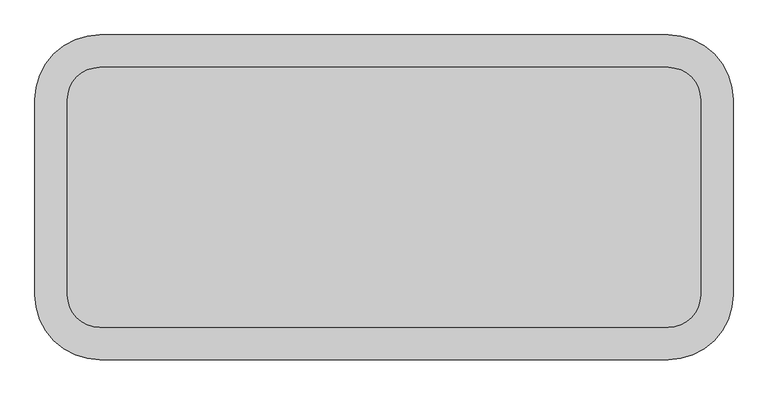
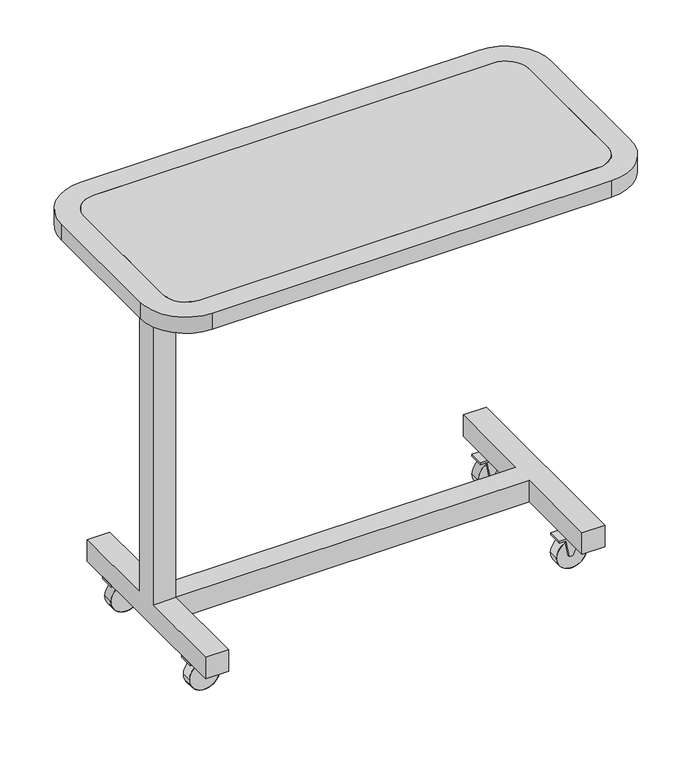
"""IFC4 building model written with IfcOpenShell, lengths in millimetres: furniture geometry, Table-Overbed_Reed : Table-Overbed_Reed."""

from ifc_helpers import new_model, si_unit, point, frame, frame_2d, origin, place, context, project, spatial, polyline, circle_curve, trimmed, segment, composite_curve, outline, extrude, faceted_brep, source, transform, mapped, element, save
from ifc_brep_helpers import plane_surface, cylinder_surface, revolved_surface, advanced_brep


def furniture_5d620d8c(model_context):
    return source(origin(), model_context, "Body", "SolidModel", [
        extrude(outline(composite_curve([segment(polyline([(32.101948, 402.1036696), (32.101948, 406.9092506)]), True, "CONTINUOUS"), segment(trimmed(circle_curve(frame_2d((35.2856279, 406.9092506)), 3.1836799), [point((32.101948, 406.9092506))], [point((34.0283203, 409.834143))], False, "CARTESIAN"), True, "CONTINUOUS"), segment(polyline([(34.0283203, 409.834143), (71.1927394, 425.8098108), (71.1927394, 392.4766031), (34.794713, 398.8945572)]), True, "CONTINUOUS"), segment(trimmed(circle_curve(frame_2d((35.3605661, 402.1036696)), 3.2586181), [point((34.794713, 398.8945572))], [point((32.101948, 402.1036696))], False, "CARTESIAN"), True, "CONTINUOUS")], self_intersect=False)), frame((0.0, 136.0485144, 0.0), z_axis=(0.0, 1.0, 0.0), x_axis=(0.0, 0.0, 1.0)), (0.0, 0.0, 1.0), 3.2631047),
        extrude(outline(composite_curve([segment(trimmed(circle_curve(frame_2d((33.3926628, 408.9961464)), 33.7547108), [point((33.3926628, 442.7508572))], [point((33.3926628, 375.2414355))], False, "CARTESIAN"), True, "CONTINUOUS"), segment(trimmed(circle_curve(frame_2d((33.3926628, 408.9961464)), 33.7547108), [point((33.3926628, 375.2414355))], [point((33.3926628, 442.7508572))], False, "CARTESIAN"), True, "CONTINUOUS")], self_intersect=False), holes=[composite_curve([segment(trimmed(circle_curve(frame_2d((33.3926628, 408.9961464)), 33.4495212), [point((33.3926628, 442.4456675))], [point((33.3926628, 375.5466252))], True, "CARTESIAN"), True, "CONTINUOUS"), segment(trimmed(circle_curve(frame_2d((33.3926628, 408.9961464)), 33.4495212), [point((33.3926628, 375.5466252))], [point((33.3926628, 442.4456675))], True, "CARTESIAN"), True, "CONTINUOUS")], self_intersect=False)]), frame((0.0, 139.9638715, 0.0), z_axis=(0.0, 1.0, 0.0), x_axis=(0.0, 0.0, 1.0)), (0.0, 0.0, 1.0), 23.0785969),
        advanced_brep(
        [(444.5, 136.0485144, 76.2), (444.5, 168.7514856, 76.2), (378.1924494, 168.7514856, 76.2), (378.1924494, 136.0485144, 76.2), (444.5, 136.0485144, 71.1927394), (378.1924494, 136.0485144, 71.1927394), (378.1924494, 168.7514856, 71.1927394), (392.4766031, 168.7514856, 71.1927394), (392.4766031, 165.4883808, 71.1927394), (425.8098108, 165.4883808, 71.1927394), (425.8098108, 168.7514856, 71.1927394), (444.5, 168.7514856, 71.1927394), (409.834143, 168.7514856, 34.0283203), (406.9092506, 168.7514856, 32.101948), (402.1036696, 168.7514856, 32.101948), (398.8945572, 168.7514856, 34.794713), (402.1036696, 165.4883808, 32.101948), (406.9092506, 165.4883808, 32.101948), (409.834143, 165.4883808, 34.0283203), (398.8945572, 165.4883808, 34.794713)],
        [
            (0, 1),
            (1, 2),
            (2, 3),
            (3, 0),
            (4, 5),
            (5, 6),
            (6, 7),
            (7, 8),
            (8, 9),
            (9, 10),
            (10, 11),
            (11, 4),
            (0, 4),
            (11, 1),
            (10, 12),
            (12, 13, circle_curve(frame((406.9092506, 168.7514856, 35.2856279), z_axis=(0.0, 1.0, 0.0), x_axis=(-1.0, 0.0, 0.0)), 3.1836799)),
            (13, 14),
            (14, 15, circle_curve(frame((402.1036696, 168.7514856, 35.3605661), z_axis=(0.0, 1.0, 0.0), x_axis=(-1.0, 0.0, 0.0)), 3.2586181)),
            (15, 7),
            (6, 2),
            (5, 3),
            (16, 17),
            (17, 18, circle_curve(frame((406.9092506, 165.4883808, 35.2856279), z_axis=(0.0, -1.0, 0.0), x_axis=(-1.0, 0.0, 0.0)), 3.1836799)),
            (18, 9),
            (8, 19),
            (19, 16, circle_curve(frame((402.1036696, 165.4883808, 35.3605661), z_axis=(0.0, -1.0, 0.0), x_axis=(-1.0, 0.0, 0.0)), 3.2586181)),
            (16, 14),
            (13, 17),
            (12, 18),
            (15, 19),
        ],
        [
            plane_surface(frame((444.5, 136.0485144, 76.2), z_axis=(0.0, 0.0, 1.0), x_axis=(0.0, 1.0, 0.0))),
            plane_surface(frame((444.5, 136.0485144, 71.1927394), z_axis=(0.0, 0.0, -1.0), x_axis=(0.0, -1.0, 0.0))),
            plane_surface(frame((444.5, 136.0485144, 76.2), z_axis=(1.0, 0.0, 0.0), x_axis=(0.0, 0.0, -1.0))),
            plane_surface(frame((444.5, 168.7514856, 76.2), z_axis=(0.0, 1.0, 0.0), x_axis=(0.0, 0.0, -1.0))),
            plane_surface(frame((378.1924494, 168.7514856, 76.2), z_axis=(-1.0, 0.0, 0.0), x_axis=(0.0, 0.0, -1.0))),
            plane_surface(frame((378.1924494, 136.0485144, 76.2), z_axis=(0.0, -1.0, 0.0), x_axis=(0.0, 0.0, -1.0))),
            plane_surface(frame((416.2848108, 165.4883808, 32.101948), z_axis=(0.0, -1.0, 0.0), x_axis=(1.0, 0.0, 0.0))),
            plane_surface(frame((402.1036696, 165.4883808, 32.101948), z_axis=(0.0, 0.0, -1.0), x_axis=(0.0, 1.0, 0.0))),
            cylinder_surface(frame((406.9092506, 168.7514856, 35.2856279), z_axis=(0.0, -1.0, 0.0), x_axis=(-1.0, 0.0, 0.0)), 3.1836799),
            plane_surface(frame((409.834143, 165.4883808, 34.0283203), z_axis=(0.9187143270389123, 0.0, -0.3949227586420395), x_axis=(0.0, 1.0, 0.0))),
            plane_surface(frame((392.4766031, 165.4883808, 71.1927394), z_axis=(-0.9848077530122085, 0.0, -0.1736481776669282), x_axis=(0.0, 1.0, 0.0))),
            cylinder_surface(frame((402.1036696, 168.7514856, 35.3605661), z_axis=(0.0, -1.0, 0.0), x_axis=(-1.0, 0.0, 0.0)), 3.2586181),
        ],
        [
            (0, [[1, 2, 3, 4]]),
            (1, [[5, 6, 7, 8, 9, 10, 11, 12]]),
            (2, [[-1, 13, -12, 14]]),
            (3, [[-2, -14, -11, 15, 16, 17, 18, 19, -7, 20]]),
            (4, [[-3, -20, -6, 21]]),
            (5, [[-4, -21, -5, -13]]),
            (6, [[22, 23, 24, -9, 25, 26]]),
            (7, [[-22, 27, -17, 28]]),
            (8, [[-23, -28, -16, 29]]),
            (9, [[-24, -29, -15, -10]]),
            (10, [[-25, -8, -19, 30]]),
            (11, [[-26, -30, -18, -27]]),
        ],
    ),
        advanced_brep(
        [(442.4456675, 163.0424685, 33.3926628), (375.5466252, 163.0424685, 33.3926628), (442.4456675, 139.9638715, 33.3926628), (375.5466252, 139.9638715, 33.3926628)],
        [
            (0, 1, circle_curve(frame((408.9961464, 163.0424685, 33.3926628), z_axis=(0.0, 1.0, 0.0), x_axis=(-1.0, 0.0, 0.0)), 33.4495212)),
            (1, 0, circle_curve(frame((408.9961464, 163.0424685, 33.3926628), z_axis=(0.0, 1.0, 0.0), x_axis=(-1.0, 0.0, 0.0)), 33.4495212)),
            (2, 3, circle_curve(frame((408.9961464, 139.9638715, 33.3926628), z_axis=(0.0, -1.0, 0.0), x_axis=(-1.0, 0.0, 0.0)), 33.4495212)),
            (3, 2, circle_curve(frame((408.9961464, 139.9638715, 33.3926628), z_axis=(0.0, -1.0, 0.0), x_axis=(-1.0, 0.0, 0.0)), 33.4495212)),
            (0, 2),
            (3, 1),
        ],
        [
            plane_surface(frame((375.5466252, 163.0424685, 33.3926628), z_axis=(0.0, 1.0, 0.0), x_axis=(0.0, 0.0, 1.0))),
            plane_surface(frame((375.5466252, 139.9638715, 33.3926628), z_axis=(0.0, -1.0, 0.0), x_axis=(0.0, 0.0, -1.0))),
            cylinder_surface(frame((408.9961464, 139.9638715, 33.3926628), z_axis=(0.0, 1.0, 0.0), x_axis=(-1.0, 0.0, 0.0)), 33.4495212),
        ],
        [
            (0, [[1, 2]]),
            (1, [[3, 4]]),
            (2, [[-1, 5, -4, 6]]),
            (2, [[-2, -6, -3, -5]]),
        ],
    ),
        extrude(outline(composite_curve([segment(polyline([(32.101948, 402.1036696), (32.101948, 406.9092506)]), True, "CONTINUOUS"), segment(trimmed(circle_curve(frame_2d((35.2856279, 406.9092506)), 3.1836799), [point((32.101948, 406.9092506))], [point((34.0283203, 409.834143))], False, "CARTESIAN"), True, "CONTINUOUS"), segment(polyline([(34.0283203, 409.834143), (71.1927394, 425.8098108), (71.1927394, 392.4766031), (34.794713, 398.8945572)]), True, "CONTINUOUS"), segment(trimmed(circle_curve(frame_2d((35.3605661, 402.1036696)), 3.2586181), [point((34.794713, 398.8945572))], [point((32.101948, 402.1036696))], False, "CARTESIAN"), True, "CONTINUOUS")], self_intersect=False)), frame((0.0, -139.3116192, 0.0), z_axis=(0.0, 1.0, 0.0), x_axis=(0.0, 0.0, 1.0)), (0.0, 0.0, 1.0), 3.2631047),
        extrude(outline(composite_curve([segment(trimmed(circle_curve(frame_2d((33.3926628, 408.9961464)), 33.7547108), [point((33.3926628, 442.7508572))], [point((33.3926628, 375.2414355))], False, "CARTESIAN"), True, "CONTINUOUS"), segment(trimmed(circle_curve(frame_2d((33.3926628, 408.9961464)), 33.7547108), [point((33.3926628, 375.2414355))], [point((33.3926628, 442.7508572))], False, "CARTESIAN"), True, "CONTINUOUS")], self_intersect=False), holes=[composite_curve([segment(trimmed(circle_curve(frame_2d((33.3926628, 408.9961464)), 33.4495212), [point((33.3926628, 442.4456675))], [point((33.3926628, 375.5466252))], True, "CARTESIAN"), True, "CONTINUOUS"), segment(trimmed(circle_curve(frame_2d((33.3926628, 408.9961464)), 33.4495212), [point((33.3926628, 375.5466252))], [point((33.3926628, 442.4456675))], True, "CARTESIAN"), True, "CONTINUOUS")], self_intersect=False)]), frame((0.0, -163.0424685, 0.0), z_axis=(0.0, 1.0, 0.0), x_axis=(0.0, 0.0, 1.0)), (0.0, 0.0, 1.0), 23.0785969),
        advanced_brep(
        [(402.1036696, -165.4883808, 32.101948), (398.8945572, -165.4883808, 34.794713), (392.4766031, -165.4883808, 71.1927394), (425.8098108, -165.4883808, 71.1927394), (409.834143, -165.4883808, 34.0283203), (406.9092506, -165.4883808, 32.101948), (406.9092506, -168.7514856, 32.101948), (402.1036696, -168.7514856, 32.101948), (409.834143, -168.7514856, 34.0283203), (425.8098108, -168.7514856, 71.1927394), (398.8945572, -168.7514856, 34.794713), (392.4766031, -168.7514856, 71.1927394), (444.5, -136.0485144, 76.2), (378.1924494, -136.0485144, 76.2), (378.1924494, -168.7514856, 76.2), (444.5, -168.7514856, 76.2), (444.5, -136.0485144, 71.1927394), (444.5, -168.7514856, 71.1927394), (378.1924494, -168.7514856, 71.1927394), (378.1924494, -136.0485144, 71.1927394)],
        [
            (0, 1, circle_curve(frame((402.1036696, -165.4883808, 35.3605661), z_axis=(0.0, 1.0, 0.0), x_axis=(-1.0, 0.0, 0.0)), 3.2586181)),
            (1, 2),
            (2, 3),
            (3, 4),
            (4, 5, circle_curve(frame((406.9092506, -165.4883808, 35.2856279), z_axis=(0.0, 1.0, 0.0), x_axis=(-1.0, 0.0, 0.0)), 3.1836799)),
            (5, 0),
            (5, 6),
            (6, 7),
            (7, 0),
            (4, 8),
            (8, 6, circle_curve(frame((406.9092506, -168.7514856, 35.2856279), z_axis=(0.0, 1.0, 0.0), x_axis=(-1.0, 0.0, 0.0)), 3.1836799)),
            (3, 9),
            (9, 8),
            (1, 10),
            (10, 11),
            (11, 2),
            (7, 10, circle_curve(frame((402.1036696, -168.7514856, 35.3605661), z_axis=(0.0, 1.0, 0.0), x_axis=(-1.0, 0.0, 0.0)), 3.2586181)),
            (12, 13),
            (13, 14),
            (14, 15),
            (15, 12),
            (16, 17),
            (17, 9),
            (11, 18),
            (18, 19),
            (19, 16),
            (15, 17),
            (16, 12),
            (14, 18),
            (13, 19),
        ],
        [
            plane_surface(frame((416.2848108, -165.4883808, 32.101948), z_axis=(0.0, 1.0, 0.0), x_axis=(1.0, 0.0, 0.0))),
            plane_surface(frame((402.1036696, -165.4883808, 32.101948), z_axis=(0.0, 0.0, -1.0), x_axis=(0.0, -1.0, 0.0))),
            cylinder_surface(frame((406.9092506, -168.7514856, 35.2856279), z_axis=(0.0, 1.0, 0.0), x_axis=(-1.0, 0.0, 0.0)), 3.1836799),
            plane_surface(frame((409.834143, -165.4883808, 34.0283203), z_axis=(0.9187143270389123, 0.0, -0.3949227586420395), x_axis=(0.0, -1.0, 0.0))),
            plane_surface(frame((392.4766031, -165.4883808, 71.1927394), z_axis=(-0.9848077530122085, 0.0, -0.1736481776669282), x_axis=(0.0, -1.0, 0.0))),
            cylinder_surface(frame((402.1036696, -168.7514856, 35.3605661), z_axis=(0.0, 1.0, 0.0), x_axis=(-1.0, 0.0, 0.0)), 3.2586181),
            plane_surface(frame((444.5, -136.0485144, 76.2), z_axis=(0.0, 0.0, 1.0), x_axis=(0.0, -1.0, 0.0))),
            plane_surface(frame((444.5, -136.0485144, 71.1927394), z_axis=(0.0, 0.0, -1.0), x_axis=(0.0, 1.0, 0.0))),
            plane_surface(frame((444.5, -136.0485144, 76.2), z_axis=(1.0, 0.0, 0.0), x_axis=(0.0, 0.0, -1.0))),
            plane_surface(frame((444.5, -168.7514856, 76.2), z_axis=(0.0, -1.0, 0.0), x_axis=(0.0, 0.0, -1.0))),
            plane_surface(frame((378.1924494, -168.7514856, 76.2), z_axis=(-1.0, 0.0, 0.0), x_axis=(0.0, 0.0, -1.0))),
            plane_surface(frame((378.1924494, -136.0485144, 76.2), z_axis=(0.0, 1.0, 0.0), x_axis=(0.0, 0.0, -1.0))),
        ],
        [
            (0, [[1, 2, 3, 4, 5, 6]]),
            (1, [[7, 8, 9, -6]]),
            (2, [[10, 11, -7, -5]]),
            (3, [[12, 13, -10, -4]]),
            (4, [[14, 15, 16, -2]]),
            (5, [[-9, 17, -14, -1]]),
            (6, [[18, 19, 20, 21]]),
            (7, [[22, 23, -12, -3, -16, 24, 25, 26]]),
            (8, [[27, -22, 28, -21]]),
            (9, [[29, -24, -15, -17, -8, -11, -13, -23, -27, -20]]),
            (10, [[30, -25, -29, -19]]),
            (11, [[-28, -26, -30, -18]]),
        ],
    ),
        advanced_brep(
        [(442.4456675, -163.0424685, 33.3926628), (375.5466252, -163.0424685, 33.3926628), (442.4456675, -139.9638715, 33.3926628), (375.5466252, -139.9638715, 33.3926628)],
        [
            (0, 1, circle_curve(frame((408.9961464, -163.0424685, 33.3926628), z_axis=(0.0, -1.0, 0.0), x_axis=(-1.0, 0.0, 0.0)), 33.4495212)),
            (1, 0, circle_curve(frame((408.9961464, -163.0424685, 33.3926628), z_axis=(0.0, -1.0, 0.0), x_axis=(-1.0, 0.0, 0.0)), 33.4495212)),
            (2, 3, circle_curve(frame((408.9961464, -139.9638715, 33.3926628), z_axis=(0.0, 1.0, 0.0), x_axis=(-1.0, 0.0, 0.0)), 33.4495212)),
            (3, 2, circle_curve(frame((408.9961464, -139.9638715, 33.3926628), z_axis=(0.0, 1.0, 0.0), x_axis=(-1.0, 0.0, 0.0)), 33.4495212)),
            (1, 3),
            (2, 0),
        ],
        [
            plane_surface(frame((375.5466252, -163.0424685, 33.3926628), z_axis=(0.0, -1.0, 0.0), x_axis=(0.0, 0.0, 1.0))),
            plane_surface(frame((375.5466252, -139.9638715, 33.3926628), z_axis=(0.0, 1.0, 0.0), x_axis=(0.0, 0.0, -1.0))),
            cylinder_surface(frame((408.9961464, -139.9638715, 33.3926628), z_axis=(0.0, -1.0, 0.0), x_axis=(-1.0, 0.0, 0.0)), 33.4495212),
        ],
        [
            (0, [[1, 2]]),
            (1, [[3, 4]]),
            (2, [[5, -3, 6, -2]]),
            (2, [[-6, -4, -5, -1]]),
        ],
    ),
        extrude(outline(composite_curve([segment(trimmed(circle_curve(frame_2d((35.3605661, -402.1036696)), 3.2586181), [point((32.101948, -402.1036696))], [point((34.794713, -398.8945572))], False, "CARTESIAN"), True, "CONTINUOUS"), segment(polyline([(34.794713, -398.8945572), (71.1927394, -392.4766031), (71.1927394, -425.8098108), (34.0283203, -409.834143)]), True, "CONTINUOUS"), segment(trimmed(circle_curve(frame_2d((35.2856279, -406.9092506)), 3.1836799), [point((34.0283203, -409.834143))], [point((32.101948, -406.9092506))], False, "CARTESIAN"), True, "CONTINUOUS"), segment(polyline([(32.101948, -406.9092506), (32.101948, -402.1036696)]), True, "CONTINUOUS")], self_intersect=False)), frame((0.0, 136.0485144, 0.0), z_axis=(0.0, 1.0, 0.0), x_axis=(0.0, 0.0, 1.0)), (0.0, 0.0, 1.0), 3.2631047),
        extrude(outline(composite_curve([segment(trimmed(circle_curve(frame_2d((33.3926628, -408.9961464)), 33.7547108), [point((33.3926628, -442.7508572))], [point((33.3926628, -375.2414355))], False, "CARTESIAN"), True, "CONTINUOUS"), segment(trimmed(circle_curve(frame_2d((33.3926628, -408.9961464)), 33.7547108), [point((33.3926628, -375.2414355))], [point((33.3926628, -442.7508572))], False, "CARTESIAN"), True, "CONTINUOUS")], self_intersect=False), holes=[composite_curve([segment(trimmed(circle_curve(frame_2d((33.3926628, -408.9961464)), 33.4495212), [point((33.3926628, -442.4456675))], [point((33.3926628, -375.5466252))], True, "CARTESIAN"), True, "CONTINUOUS"), segment(trimmed(circle_curve(frame_2d((33.3926628, -408.9961464)), 33.4495212), [point((33.3926628, -375.5466252))], [point((33.3926628, -442.4456675))], True, "CARTESIAN"), True, "CONTINUOUS")], self_intersect=False)]), frame((0.0, 139.9638715, 0.0), z_axis=(0.0, 1.0, 0.0), x_axis=(0.0, 0.0, 1.0)), (0.0, 0.0, 1.0), 23.0785969),
        advanced_brep(
        [(-402.1036696, 165.4883808, 32.101948), (-398.8945572, 165.4883808, 34.794713), (-392.4766031, 165.4883808, 71.1927394), (-425.8098108, 165.4883808, 71.1927394), (-409.834143, 165.4883808, 34.0283203), (-406.9092506, 165.4883808, 32.101948), (-406.9092506, 168.7514856, 32.101948), (-402.1036696, 168.7514856, 32.101948), (-409.834143, 168.7514856, 34.0283203), (-425.8098108, 168.7514856, 71.1927394), (-398.8945572, 168.7514856, 34.794713), (-392.4766031, 168.7514856, 71.1927394), (-444.5, 136.0485144, 76.2), (-378.1924494, 136.0485144, 76.2), (-378.1924494, 168.7514856, 76.2), (-444.5, 168.7514856, 76.2), (-444.5, 136.0485144, 71.1927394), (-444.5, 168.7514856, 71.1927394), (-378.1924494, 168.7514856, 71.1927394), (-378.1924494, 136.0485144, 71.1927394)],
        [
            (0, 1, circle_curve(frame((-402.1036696, 165.4883808, 35.3605661), z_axis=(0.0, -1.0, 0.0), x_axis=(1.0, 0.0, 0.0)), 3.2586181)),
            (1, 2),
            (2, 3),
            (3, 4),
            (4, 5, circle_curve(frame((-406.9092506, 165.4883808, 35.2856279), z_axis=(0.0, -1.0, 0.0), x_axis=(1.0, 0.0, 0.0)), 3.1836799)),
            (5, 0),
            (5, 6),
            (6, 7),
            (7, 0),
            (4, 8),
            (8, 6, circle_curve(frame((-406.9092506, 168.7514856, 35.2856279), z_axis=(0.0, -1.0, 0.0), x_axis=(1.0, 0.0, 0.0)), 3.1836799)),
            (3, 9),
            (9, 8),
            (1, 10),
            (10, 11),
            (11, 2),
            (7, 10, circle_curve(frame((-402.1036696, 168.7514856, 35.3605661), z_axis=(0.0, -1.0, 0.0), x_axis=(1.0, 0.0, 0.0)), 3.2586181)),
            (12, 13),
            (13, 14),
            (14, 15),
            (15, 12),
            (16, 17),
            (17, 9),
            (11, 18),
            (18, 19),
            (19, 16),
            (15, 17),
            (16, 12),
            (14, 18),
            (13, 19),
        ],
        [
            plane_surface(frame((-416.2848108, 165.4883808, 32.101948), z_axis=(0.0, -1.0, 0.0), x_axis=(-1.0, 0.0, 0.0))),
            plane_surface(frame((-402.1036696, 165.4883808, 32.101948), z_axis=(0.0, 0.0, -1.0), x_axis=(0.0, 1.0, 0.0))),
            cylinder_surface(frame((-406.9092506, 168.7514856, 35.2856279), z_axis=(0.0, -1.0, 0.0), x_axis=(1.0, 0.0, 0.0)), 3.1836799),
            plane_surface(frame((-409.834143, 165.4883808, 34.0283203), z_axis=(-0.9187143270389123, 0.0, -0.3949227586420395), x_axis=(0.0, 1.0, 0.0))),
            plane_surface(frame((-392.4766031, 165.4883808, 71.1927394), z_axis=(0.9848077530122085, 0.0, -0.1736481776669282), x_axis=(0.0, 1.0, 0.0))),
            cylinder_surface(frame((-402.1036696, 168.7514856, 35.3605661), z_axis=(0.0, -1.0, 0.0), x_axis=(1.0, 0.0, 0.0)), 3.2586181),
            plane_surface(frame((-444.5, 136.0485144, 76.2), z_axis=(0.0, 0.0, 1.0), x_axis=(0.0, 1.0, 0.0))),
            plane_surface(frame((-444.5, 136.0485144, 71.1927394), z_axis=(0.0, 0.0, -1.0), x_axis=(0.0, -1.0, 0.0))),
            plane_surface(frame((-444.5, 136.0485144, 76.2), z_axis=(-1.0, 0.0, 0.0), x_axis=(0.0, 0.0, -1.0))),
            plane_surface(frame((-444.5, 168.7514856, 76.2), z_axis=(0.0, 1.0, 0.0), x_axis=(0.0, 0.0, -1.0))),
            plane_surface(frame((-378.1924494, 168.7514856, 76.2), z_axis=(1.0, 0.0, 0.0), x_axis=(0.0, 0.0, -1.0))),
            plane_surface(frame((-378.1924494, 136.0485144, 76.2), z_axis=(0.0, -1.0, 0.0), x_axis=(0.0, 0.0, -1.0))),
        ],
        [
            (0, [[1, 2, 3, 4, 5, 6]]),
            (1, [[7, 8, 9, -6]]),
            (2, [[10, 11, -7, -5]]),
            (3, [[12, 13, -10, -4]]),
            (4, [[14, 15, 16, -2]]),
            (5, [[-9, 17, -14, -1]]),
            (6, [[18, 19, 20, 21]]),
            (7, [[22, 23, -12, -3, -16, 24, 25, 26]]),
            (8, [[27, -22, 28, -21]]),
            (9, [[29, -24, -15, -17, -8, -11, -13, -23, -27, -20]]),
            (10, [[30, -25, -29, -19]]),
            (11, [[-28, -26, -30, -18]]),
        ],
    ),
        advanced_brep(
        [(-442.4456675, 163.0424685, 33.3926628), (-375.5466252, 163.0424685, 33.3926628), (-442.4456675, 139.9638715, 33.3926628), (-375.5466252, 139.9638715, 33.3926628)],
        [
            (0, 1, circle_curve(frame((-408.9961464, 163.0424685, 33.3926628), z_axis=(0.0, 1.0, 0.0), x_axis=(1.0, 0.0, 0.0)), 33.4495212)),
            (1, 0, circle_curve(frame((-408.9961464, 163.0424685, 33.3926628), z_axis=(0.0, 1.0, 0.0), x_axis=(1.0, 0.0, 0.0)), 33.4495212)),
            (2, 3, circle_curve(frame((-408.9961464, 139.9638715, 33.3926628), z_axis=(0.0, -1.0, 0.0), x_axis=(1.0, 0.0, 0.0)), 33.4495212)),
            (3, 2, circle_curve(frame((-408.9961464, 139.9638715, 33.3926628), z_axis=(0.0, -1.0, 0.0), x_axis=(1.0, 0.0, 0.0)), 33.4495212)),
            (1, 3),
            (2, 0),
        ],
        [
            plane_surface(frame((-375.5466252, 163.0424685, 33.3926628), z_axis=(0.0, 1.0, 0.0), x_axis=(0.0, 0.0, 1.0))),
            plane_surface(frame((-375.5466252, 139.9638715, 33.3926628), z_axis=(0.0, -1.0, 0.0), x_axis=(0.0, 0.0, -1.0))),
            cylinder_surface(frame((-408.9961464, 139.9638715, 33.3926628), z_axis=(0.0, 1.0, 0.0), x_axis=(1.0, 0.0, 0.0)), 33.4495212),
        ],
        [
            (0, [[1, 2]]),
            (1, [[3, 4]]),
            (2, [[5, -3, 6, -2]]),
            (2, [[-6, -4, -5, -1]]),
        ],
    ),
        extrude(outline(composite_curve([segment(trimmed(circle_curve(frame_2d((35.3605661, -402.1036696)), 3.2586181), [point((32.101948, -402.1036696))], [point((34.794713, -398.8945572))], False, "CARTESIAN"), True, "CONTINUOUS"), segment(polyline([(34.794713, -398.8945572), (71.1927394, -392.4766031), (71.1927394, -425.8098108), (34.0283203, -409.834143)]), True, "CONTINUOUS"), segment(trimmed(circle_curve(frame_2d((35.2856279, -406.9092506)), 3.1836799), [point((34.0283203, -409.834143))], [point((32.101948, -406.9092506))], False, "CARTESIAN"), True, "CONTINUOUS"), segment(polyline([(32.101948, -406.9092506), (32.101948, -402.1036696)]), True, "CONTINUOUS")], self_intersect=False)), frame((0.0, -139.3116192, 0.0), z_axis=(0.0, 1.0, 0.0), x_axis=(0.0, 0.0, 1.0)), (0.0, 0.0, 1.0), 3.2631047),
        extrude(outline(composite_curve([segment(trimmed(circle_curve(frame_2d((33.3926628, -408.9961464)), 33.7547108), [point((33.3926628, -442.7508572))], [point((33.3926628, -375.2414355))], False, "CARTESIAN"), True, "CONTINUOUS"), segment(trimmed(circle_curve(frame_2d((33.3926628, -408.9961464)), 33.7547108), [point((33.3926628, -375.2414355))], [point((33.3926628, -442.7508572))], False, "CARTESIAN"), True, "CONTINUOUS")], self_intersect=False), holes=[composite_curve([segment(trimmed(circle_curve(frame_2d((33.3926628, -408.9961464)), 33.4495212), [point((33.3926628, -442.4456675))], [point((33.3926628, -375.5466252))], True, "CARTESIAN"), True, "CONTINUOUS"), segment(trimmed(circle_curve(frame_2d((33.3926628, -408.9961464)), 33.4495212), [point((33.3926628, -375.5466252))], [point((33.3926628, -442.4456675))], True, "CARTESIAN"), True, "CONTINUOUS")], self_intersect=False)]), frame((0.0, -163.0424685, 0.0), z_axis=(0.0, 1.0, 0.0), x_axis=(0.0, 0.0, 1.0)), (0.0, 0.0, 1.0), 23.0785969),
        advanced_brep(
        [(-444.5, -136.0485144, 76.2), (-444.5, -168.7514856, 76.2), (-378.1924494, -168.7514856, 76.2), (-378.1924494, -136.0485144, 76.2), (-444.5, -136.0485144, 71.1927394), (-378.1924494, -136.0485144, 71.1927394), (-378.1924494, -168.7514856, 71.1927394), (-392.4766031, -168.7514856, 71.1927394), (-392.4766031, -165.4883808, 71.1927394), (-425.8098108, -165.4883808, 71.1927394), (-425.8098108, -168.7514856, 71.1927394), (-444.5, -168.7514856, 71.1927394), (-409.834143, -168.7514856, 34.0283203), (-406.9092506, -168.7514856, 32.101948), (-402.1036696, -168.7514856, 32.101948), (-398.8945572, -168.7514856, 34.794713), (-402.1036696, -165.4883808, 32.101948), (-406.9092506, -165.4883808, 32.101948), (-409.834143, -165.4883808, 34.0283203), (-398.8945572, -165.4883808, 34.794713)],
        [
            (0, 1),
            (1, 2),
            (2, 3),
            (3, 0),
            (4, 5),
            (5, 6),
            (6, 7),
            (7, 8),
            (8, 9),
            (9, 10),
            (10, 11),
            (11, 4),
            (0, 4),
            (11, 1),
            (10, 12),
            (12, 13, circle_curve(frame((-406.9092506, -168.7514856, 35.2856279), z_axis=(0.0, -1.0, 0.0), x_axis=(1.0, 0.0, 0.0)), 3.1836799)),
            (13, 14),
            (14, 15, circle_curve(frame((-402.1036696, -168.7514856, 35.3605661), z_axis=(0.0, -1.0, 0.0), x_axis=(1.0, 0.0, 0.0)), 3.2586181)),
            (15, 7),
            (6, 2),
            (5, 3),
            (16, 17),
            (17, 18, circle_curve(frame((-406.9092506, -165.4883808, 35.2856279), z_axis=(0.0, 1.0, 0.0), x_axis=(1.0, 0.0, 0.0)), 3.1836799)),
            (18, 9),
            (8, 19),
            (19, 16, circle_curve(frame((-402.1036696, -165.4883808, 35.3605661), z_axis=(0.0, 1.0, 0.0), x_axis=(1.0, 0.0, 0.0)), 3.2586181)),
            (16, 14),
            (13, 17),
            (12, 18),
            (15, 19),
        ],
        [
            plane_surface(frame((-444.5, -136.0485144, 76.2), z_axis=(0.0, 0.0, 1.0), x_axis=(0.0, -1.0, 0.0))),
            plane_surface(frame((-444.5, -136.0485144, 71.1927394), z_axis=(0.0, 0.0, -1.0), x_axis=(0.0, 1.0, 0.0))),
            plane_surface(frame((-444.5, -136.0485144, 76.2), z_axis=(-1.0, 0.0, 0.0), x_axis=(0.0, 0.0, -1.0))),
            plane_surface(frame((-444.5, -168.7514856, 76.2), z_axis=(0.0, -1.0, 0.0), x_axis=(0.0, 0.0, -1.0))),
            plane_surface(frame((-378.1924494, -168.7514856, 76.2), z_axis=(1.0, 0.0, 0.0), x_axis=(0.0, 0.0, -1.0))),
            plane_surface(frame((-378.1924494, -136.0485144, 76.2), z_axis=(0.0, 1.0, 0.0), x_axis=(0.0, 0.0, -1.0))),
            plane_surface(frame((-416.2848108, -165.4883808, 32.101948), z_axis=(0.0, 1.0, 0.0), x_axis=(-1.0, 0.0, 0.0))),
            plane_surface(frame((-402.1036696, -165.4883808, 32.101948), z_axis=(0.0, 0.0, -1.0), x_axis=(0.0, -1.0, 0.0))),
            cylinder_surface(frame((-406.9092506, -168.7514856, 35.2856279), z_axis=(0.0, 1.0, 0.0), x_axis=(1.0, 0.0, 0.0)), 3.1836799),
            plane_surface(frame((-409.834143, -165.4883808, 34.0283203), z_axis=(-0.9187143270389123, 0.0, -0.3949227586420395), x_axis=(0.0, -1.0, 0.0))),
            plane_surface(frame((-392.4766031, -165.4883808, 71.1927394), z_axis=(0.9848077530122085, 0.0, -0.1736481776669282), x_axis=(0.0, -1.0, 0.0))),
            cylinder_surface(frame((-402.1036696, -168.7514856, 35.3605661), z_axis=(0.0, 1.0, 0.0), x_axis=(1.0, 0.0, 0.0)), 3.2586181),
        ],
        [
            (0, [[1, 2, 3, 4]]),
            (1, [[5, 6, 7, 8, 9, 10, 11, 12]]),
            (2, [[-1, 13, -12, 14]]),
            (3, [[-2, -14, -11, 15, 16, 17, 18, 19, -7, 20]]),
            (4, [[-3, -20, -6, 21]]),
            (5, [[-4, -21, -5, -13]]),
            (6, [[22, 23, 24, -9, 25, 26]]),
            (7, [[-22, 27, -17, 28]]),
            (8, [[-23, -28, -16, 29]]),
            (9, [[-24, -29, -15, -10]]),
            (10, [[-25, -8, -19, 30]]),
            (11, [[-26, -30, -18, -27]]),
        ],
    ),
        advanced_brep(
        [(-442.4456675, -163.0424685, 33.3926628), (-375.5466252, -163.0424685, 33.3926628), (-442.4456675, -139.9638715, 33.3926628), (-375.5466252, -139.9638715, 33.3926628)],
        [
            (0, 1, circle_curve(frame((-408.9961464, -163.0424685, 33.3926628), z_axis=(0.0, -1.0, 0.0), x_axis=(1.0, 0.0, 0.0)), 33.4495212)),
            (1, 0, circle_curve(frame((-408.9961464, -163.0424685, 33.3926628), z_axis=(0.0, -1.0, 0.0), x_axis=(1.0, 0.0, 0.0)), 33.4495212)),
            (2, 3, circle_curve(frame((-408.9961464, -139.9638715, 33.3926628), z_axis=(0.0, 1.0, 0.0), x_axis=(1.0, 0.0, 0.0)), 33.4495212)),
            (3, 2, circle_curve(frame((-408.9961464, -139.9638715, 33.3926628), z_axis=(0.0, 1.0, 0.0), x_axis=(1.0, 0.0, 0.0)), 33.4495212)),
            (0, 2),
            (3, 1),
        ],
        [
            plane_surface(frame((-375.5466252, -163.0424685, 33.3926628), z_axis=(0.0, -1.0, 0.0), x_axis=(0.0, 0.0, 1.0))),
            plane_surface(frame((-375.5466252, -139.9638715, 33.3926628), z_axis=(0.0, 1.0, 0.0), x_axis=(0.0, 0.0, -1.0))),
            cylinder_surface(frame((-408.9961464, -139.9638715, 33.3926628), z_axis=(0.0, -1.0, 0.0), x_axis=(1.0, 0.0, 0.0)), 33.4495212),
        ],
        [
            (0, [[1, 2]]),
            (1, [[3, 4]]),
            (2, [[-1, 5, -4, 6]]),
            (2, [[-2, -6, -3, -5]]),
        ],
    ),
        extrude(outline(composite_curve([segment(trimmed(circle_curve(frame_2d((444.5, 152.4)), 50.8), [point((444.5, 203.2))], [point((495.3, 152.4))], False, "CARTESIAN"), True, "CONTINUOUS"), segment(polyline([(495.3, 152.4), (495.3, -152.4)]), True, "CONTINUOUS"), segment(trimmed(circle_curve(frame_2d((444.5, -152.4)), 50.8), [point((495.3, -152.4))], [point((444.5, -203.2))], False, "CARTESIAN"), True, "CONTINUOUS"), segment(polyline([(444.5, -203.2), (-444.5, -203.2)]), True, "CONTINUOUS"), segment(trimmed(circle_curve(frame_2d((-444.5, -152.4)), 50.8), [point((-444.5, -203.2))], [point((-495.3, -152.4))], False, "CARTESIAN"), True, "CONTINUOUS"), segment(polyline([(-495.3, -152.4), (-495.3, 152.4)]), True, "CONTINUOUS"), segment(trimmed(circle_curve(frame_2d((-444.5, 152.4)), 50.8), [point((-495.3, 152.4))], [point((-444.5, 203.2))], False, "CARTESIAN"), True, "CONTINUOUS"), segment(polyline([(-444.5, 203.2), (444.5, 203.2)]), True, "CONTINUOUS")], self_intersect=False)), frame((0.0, 0.0, 914.4), z_axis=(0.0, 0.0, 1.0), x_axis=(1.0, 0.0, 0.0)), (0.0, 0.0, 1.0), 38.1),
        faceted_brep([(-444.5, 25.4, 914.4), (-444.5, -25.4, 914.4), (0.0, -25.4, 914.4), (0.0, 25.4, 914.4), (-393.7, -228.6, 76.2), (-444.5, -228.6, 76.2), (-444.5, 228.6, 76.2), (-393.7, 228.6, 76.2), (-393.7, 25.4, 76.2), (393.7, 25.4, 76.2), (393.7, 228.6, 76.2), (444.5, 228.6, 76.2), (444.5, -228.6, 76.2), (393.7, -228.6, 76.2), (393.7, -25.4, 76.2), (-393.7, -25.4, 76.2), (-444.5, 25.4, 127.0), (-444.5, 228.6, 127.0), (-444.5, -228.6, 127.0), (-444.5, -25.4, 127.0), (-393.7, -25.4, 127.0), (-393.7, -25.4, 863.6), (0.0, -25.4, 863.6), (-393.7, -228.6, 127.0), (-393.7, 228.6, 127.0), (-393.7, 25.4, 127.0), (-393.7, 25.4, 863.6), (0.0, 25.4, 863.6), (444.5, -228.6, 127.0), (444.5, 228.6, 127.0), (393.7, -25.4, 127.0), (393.7, -228.6, 127.0), (393.7, 228.6, 127.0), (393.7, 25.4, 127.0)], [[[0, 1, 2, 3]], [[4, 5, 6, 7, 8, 9, 10, 11, 12, 13, 14, 15]], [[1, 0, 16, 17, 6, 5, 18, 19]], [[19, 20, 21, 22, 2, 1]], [[23, 4, 15, 20]], [[7, 24, 25, 8]], [[21, 20, 25, 26]], [[25, 16, 0, 3, 27, 26]], [[4, 23, 18, 5]], [[7, 6, 17, 24]], [[18, 23, 20, 19]], [[24, 17, 16, 25]], [[3, 2, 22, 27]], [[27, 22, 21, 26]], [[28, 12, 11, 29]], [[25, 20, 30, 31, 28, 29, 32, 33]], [[20, 15, 14, 30]], [[8, 25, 33, 9]], [[13, 12, 28, 31]], [[10, 32, 29, 11]], [[13, 31, 30, 14]], [[32, 10, 9, 33]]]),
        advanced_brep(
        [(-444.5, 254.0, 952.5), (-546.1, 152.4, 952.5), (-546.1, -152.4, 952.5), (-444.5, -254.0, 952.5), (444.5, -254.0, 952.5), (546.1, -152.4, 952.5), (546.1, 152.4, 952.5), (444.5, 254.0, 952.5), (-444.5, 203.2, 952.5), (444.5, 203.2, 952.5), (495.3, 152.4, 952.5), (495.3, -152.4, 952.5), (444.5, -203.2, 952.5), (-444.5, -203.2, 952.5), (-495.3, -152.4, 952.5), (-495.3, 152.4, 952.5), (-444.5, 254.0, 914.4), (444.5, 254.0, 914.4), (546.1, 152.4, 914.4), (546.1, -152.4, 914.4), (444.5, -254.0, 914.4), (-444.5, -254.0, 914.4), (-546.1, -152.4, 914.4), (-546.1, 152.4, 914.4), (-444.5, 203.2, 914.4), (-495.3, 152.4, 914.4), (-495.3, -152.4, 914.4), (-444.5, -203.2, 914.4), (444.5, -203.2, 914.4), (495.3, -152.4, 914.4), (495.3, 152.4, 914.4), (444.5, 203.2, 914.4)],
        [
            (0, 1, circle_curve(frame((-444.5, 152.4, 952.5), z_axis=(0.0, 0.0, 1.0), x_axis=(1.0, 0.0, 0.0)), 101.6)),
            (1, 2),
            (2, 3, circle_curve(frame((-444.5, -152.4, 952.5), z_axis=(0.0, 0.0, 1.0), x_axis=(1.0, 0.0, 0.0)), 101.6)),
            (3, 4),
            (4, 5, circle_curve(frame((444.5, -152.4, 952.5), z_axis=(0.0, 0.0, 1.0), x_axis=(1.0, 0.0, 0.0)), 101.6)),
            (5, 6),
            (6, 7, circle_curve(frame((444.5, 152.4, 952.5), z_axis=(0.0, 0.0, 1.0), x_axis=(1.0, 0.0, 0.0)), 101.6)),
            (7, 0),
            (8, 9),
            (9, 10, circle_curve(frame((444.5, 152.4, 952.5), z_axis=(0.0, 0.0, -1.0), x_axis=(1.0, 0.0, 0.0)), 50.8)),
            (10, 11),
            (11, 12, circle_curve(frame((444.5, -152.4, 952.5), z_axis=(0.0, 0.0, -1.0), x_axis=(1.0, 0.0, 0.0)), 50.8)),
            (12, 13),
            (13, 14, circle_curve(frame((-444.5, -152.4, 952.5), z_axis=(0.0, 0.0, -1.0), x_axis=(1.0, 0.0, 0.0)), 50.8)),
            (14, 15),
            (15, 8, circle_curve(frame((-444.5, 152.4, 952.5), z_axis=(0.0, 0.0, -1.0), x_axis=(1.0, 0.0, 0.0)), 50.8)),
            (16, 17),
            (17, 18, circle_curve(frame((444.5, 152.4, 914.4), z_axis=(0.0, 0.0, -1.0), x_axis=(1.0, 0.0, 0.0)), 101.6)),
            (18, 19),
            (19, 20, circle_curve(frame((444.5, -152.4, 914.4), z_axis=(0.0, 0.0, -1.0), x_axis=(1.0, 0.0, 0.0)), 101.6)),
            (20, 21),
            (21, 22, circle_curve(frame((-444.5, -152.4, 914.4), z_axis=(0.0, 0.0, -1.0), x_axis=(1.0, 0.0, 0.0)), 101.6)),
            (22, 23),
            (23, 16, circle_curve(frame((-444.5, 152.4, 914.4), z_axis=(0.0, 0.0, -1.0), x_axis=(1.0, 0.0, 0.0)), 101.6)),
            (24, 25, circle_curve(frame((-444.5, 152.4, 914.4), z_axis=(0.0, 0.0, 1.0), x_axis=(1.0, 0.0, 0.0)), 50.8)),
            (25, 26),
            (26, 27, circle_curve(frame((-444.5, -152.4, 914.4), z_axis=(0.0, 0.0, 1.0), x_axis=(1.0, 0.0, 0.0)), 50.8)),
            (27, 28),
            (28, 29, circle_curve(frame((444.5, -152.4, 914.4), z_axis=(0.0, 0.0, 1.0), x_axis=(1.0, 0.0, 0.0)), 50.8)),
            (29, 30),
            (30, 31, circle_curve(frame((444.5, 152.4, 914.4), z_axis=(0.0, 0.0, 1.0), x_axis=(1.0, 0.0, 0.0)), 50.8)),
            (31, 24),
            (8, 24),
            (31, 9),
            (30, 10),
            (29, 11),
            (28, 12),
            (27, 13),
            (26, 14),
            (25, 15),
            (0, 16),
            (23, 1),
            (22, 2),
            (21, 3),
            (20, 4),
            (19, 5),
            (18, 6),
            (17, 7),
        ],
        [
            plane_surface(frame((444.5, 203.2, 952.5), z_axis=(0.0, 0.0, 1.0), x_axis=(1.0, 0.0, 0.0))),
            plane_surface(frame((444.5, 203.2, 914.4), z_axis=(0.0, 0.0, -1.0), x_axis=(-1.0, 0.0, 0.0))),
            plane_surface(frame((-444.5, 203.2, 952.5), z_axis=(0.0, -1.0, 0.0), x_axis=(0.0, 0.0, -1.0))),
            revolved_surface(polyline([(495.3, 152.4, 914.4), (495.3, 152.4, 952.5)]), (444.5, 152.4, 914.4), (0.0, 0.0, -1.0)),
            plane_surface(frame((495.3, 152.4, 952.5), z_axis=(-1.0, 0.0, 0.0), x_axis=(0.0, 0.0, -1.0))),
            revolved_surface(polyline([(495.3, -152.4, 914.4), (495.3, -152.4, 952.5)]), (444.5, -152.4, 914.4), (0.0, 0.0, -1.0)),
            plane_surface(frame((444.5, -203.2, 952.5), z_axis=(0.0, 1.0, 0.0), x_axis=(0.0, 0.0, -1.0))),
            revolved_surface(polyline([(-393.7, -152.4, 914.4), (-393.7, -152.4, 952.5)]), (-444.5, -152.4, 914.4), (0.0, 0.0, -1.0)),
            plane_surface(frame((-495.3, -152.4, 952.5), z_axis=(1.0, 0.0, 0.0), x_axis=(0.0, 0.0, -1.0))),
            revolved_surface(polyline([(-393.7, 152.4, 914.4), (-393.7, 152.4, 952.5)]), (-444.5, 152.4, 914.4), (0.0, 0.0, -1.0)),
            cylinder_surface(frame((-444.5, 152.4, 0.0), z_axis=(0.0, 0.0, 1.0), x_axis=(1.0, 0.0, 0.0)), 101.6),
            plane_surface(frame((-546.1, 152.4, 952.5), z_axis=(-1.0, 0.0, 0.0), x_axis=(0.0, 0.0, -1.0))),
            cylinder_surface(frame((-444.5, -152.4, 0.0), z_axis=(0.0, 0.0, 1.0), x_axis=(1.0, 0.0, 0.0)), 101.6),
            plane_surface(frame((-444.5, -254.0, 952.5), z_axis=(0.0, -1.0, 0.0), x_axis=(0.0, 0.0, -1.0))),
            cylinder_surface(frame((444.5, -152.4, 0.0), z_axis=(0.0, 0.0, 1.0), x_axis=(1.0, 0.0, 0.0)), 101.6),
            plane_surface(frame((546.1, -152.4, 952.5), z_axis=(1.0, 0.0, 0.0), x_axis=(0.0, 0.0, -1.0))),
            cylinder_surface(frame((444.5, 152.4, 0.0), z_axis=(0.0, 0.0, 1.0), x_axis=(1.0, 0.0, 0.0)), 101.6),
            plane_surface(frame((444.5, 254.0, 952.5), z_axis=(0.0, 1.0, 0.0), x_axis=(0.0, 0.0, -1.0))),
        ],
        [
            (0, [[1, 2, 3, 4, 5, 6, 7, 8], [9, 10, 11, 12, 13, 14, 15, 16]]),
            (1, [[17, 18, 19, 20, 21, 22, 23, 24], [25, 26, 27, 28, 29, 30, 31, 32]]),
            (2, [[-9, 33, -32, 34]]),
            (3, [[-10, -34, -31, 35]]),
            (4, [[-11, -35, -30, 36]]),
            (5, [[-12, -36, -29, 37]]),
            (6, [[-13, -37, -28, 38]]),
            (7, [[-14, -38, -27, 39]]),
            (8, [[-15, -39, -26, 40]]),
            (9, [[-16, -40, -25, -33]]),
            (10, [[-1, 41, -24, 42]]),
            (11, [[-2, -42, -23, 43]]),
            (12, [[-3, -43, -22, 44]]),
            (13, [[-4, -44, -21, 45]]),
            (14, [[-5, -45, -20, 46]]),
            (15, [[-6, -46, -19, 47]]),
            (16, [[-7, -47, -18, 48]]),
            (17, [[-8, -48, -17, -41]]),
        ],
    ),
    ])


if __name__ == "__main__":
    model = new_model("IFC4")
    model_context = context("Model", 3, world=origin())
    ifc_project = project(units=[si_unit("LENGTHUNIT", "METRE", prefix="MILLI")], contexts=[model_context])
    site = spatial("IfcSite", under=ifc_project)
    building = spatial("IfcBuilding", under=site)
    placement = place(None, origin())
    furniture_shape = furniture_5d620d8c(model_context)
    element("IfcFurniture", 1, ObjectType="Table-Overbed_Reed : Table-Overbed_Reed", at=placement, inside=building, context=model_context, shape_type="MappedRepresentation", body=[
        mapped(furniture_shape, transform((0.0, 0.0, 0.0), x_axis=(1.0, 0.0, 0.0), y_axis=(0.0, 1.0, 0.0), z_axis=(0.0, 0.0, 1.0))),
    ])
    save(model, "model.ifc")
